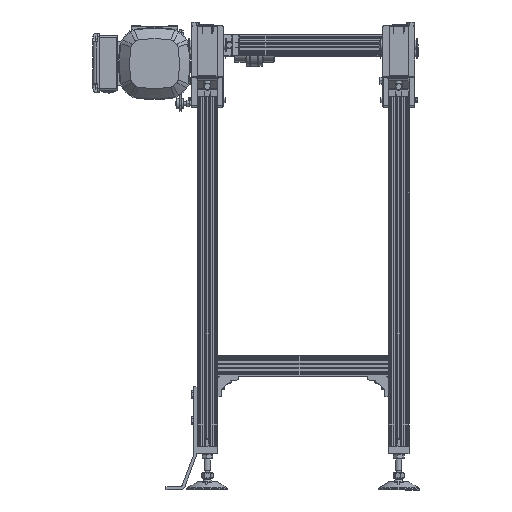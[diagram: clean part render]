
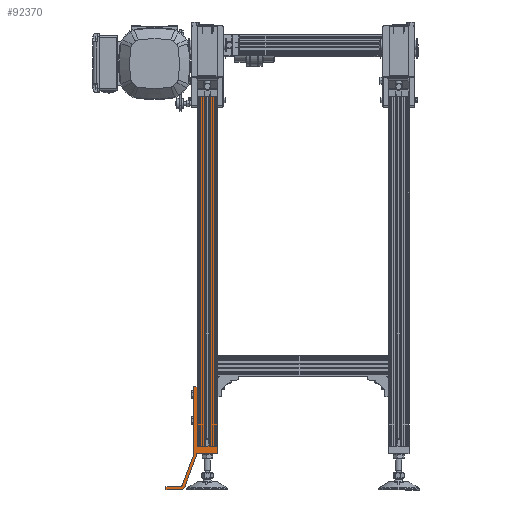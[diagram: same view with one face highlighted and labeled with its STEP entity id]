
A CAD part, left-side view. The second image highlights one B-rep face of the part: STEP entity #92370.
In plain terms, the highlighted planar face has unit normal (-1, 0, 0).
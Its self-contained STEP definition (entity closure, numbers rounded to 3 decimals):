
#5599=LINE('',#144111,#14155);
#5764=LINE('',#144761,#14320);
#5765=LINE('',#144762,#14321);
#5789=LINE('',#144831,#14345);
#5790=LINE('',#144833,#14346);
#5791=LINE('',#144835,#14347);
#5792=LINE('',#144837,#14348);
#5793=LINE('',#144839,#14349);
#5794=LINE('',#144843,#14350);
#5795=LINE('',#144847,#14351);
#5796=LINE('',#144849,#14352);
#5797=LINE('',#144851,#14353);
#5798=LINE('',#144855,#14354);
#5799=LINE('',#144859,#14355);
#5800=LINE('',#144860,#14356);
#5801=LINE('',#144862,#14357);
#5802=LINE('',#144863,#14358);
#5803=LINE('',#144865,#14359);
#5804=LINE('',#144867,#14360);
#5805=LINE('',#144868,#14361);
#14155=VECTOR('',#115348,15.);
#14320=VECTOR('',#115727,13.45);
#14321=VECTOR('',#115728,13.45);
#14345=VECTOR('',#115806,675.);
#14346=VECTOR('',#115807,1.);
#14347=VECTOR('',#115808,115.);
#14348=VECTOR('',#115809,6.);
#14349=VECTOR('',#115810,128.703);
#14350=VECTOR('',#115813,62.015);
#14351=VECTOR('',#115816,25.951);
#14352=VECTOR('',#115817,6.);
#14353=VECTOR('',#115818,25.933);
#14354=VECTOR('',#115821,63.225);
#14355=VECTOR('',#115824,1.249);
#14356=VECTOR('',#115825,40.);
#14357=VECTOR('',#115826,1.);
#14358=VECTOR('',#115827,675.);
#14359=VECTOR('',#115828,675.);
#14360=VECTOR('',#115829,11.1);
#14361=VECTOR('',#115830,675.);
#19674=PLANE('',#99117);
#25890=FACE_OUTER_BOUND('',#31313,.T.);
#31313=EDGE_LOOP('',(#70840,#70841,#70842,#70843,#70844,#70845,#70846,#70847,
#70848,#70849,#70850,#70851,#70852,#70853,#70854,#70855,#70856,#70857,#70858,
#70859,#70860,#70861,#70862,#70863));
#36556=CIRCLE('',#99118,12.);
#36557=CIRCLE('',#99119,6.);
#36558=CIRCLE('',#99120,12.);
#36559=CIRCLE('',#99121,12.);
#42658=VERTEX_POINT('',#144108);
#42659=VERTEX_POINT('',#144110);
#42779=VERTEX_POINT('',#144544);
#42782=VERTEX_POINT('',#144549);
#42784=VERTEX_POINT('',#144555);
#42788=VERTEX_POINT('',#144564);
#42839=VERTEX_POINT('',#144830);
#42840=VERTEX_POINT('',#144832);
#42841=VERTEX_POINT('',#144834);
#42842=VERTEX_POINT('',#144836);
#42843=VERTEX_POINT('',#144838);
#42844=VERTEX_POINT('',#144840);
#42845=VERTEX_POINT('',#144842);
#42846=VERTEX_POINT('',#144844);
#42847=VERTEX_POINT('',#144846);
#42848=VERTEX_POINT('',#144848);
#42849=VERTEX_POINT('',#144850);
#42850=VERTEX_POINT('',#144852);
#42851=VERTEX_POINT('',#144854);
#42852=VERTEX_POINT('',#144856);
#42853=VERTEX_POINT('',#144858);
#42854=VERTEX_POINT('',#144861);
#42855=VERTEX_POINT('',#144864);
#42856=VERTEX_POINT('',#144866);
#52948=EDGE_CURVE('',#42658,#42659,#5599,.T.);
#53172=EDGE_CURVE('',#42779,#42784,#5764,.T.);
#53173=EDGE_CURVE('',#42788,#42782,#5765,.T.);
#53202=EDGE_CURVE('',#42839,#42784,#5789,.T.);
#53203=EDGE_CURVE('',#42839,#42840,#5790,.T.);
#53204=EDGE_CURVE('',#42841,#42840,#5791,.T.);
#53205=EDGE_CURVE('',#42842,#42841,#5792,.T.);
#53206=EDGE_CURVE('',#42843,#42842,#5793,.T.);
#53207=EDGE_CURVE('',#42844,#42843,#36556,.T.);
#53208=EDGE_CURVE('',#42845,#42844,#5794,.T.);
#53209=EDGE_CURVE('',#42846,#42845,#36557,.T.);
#53210=EDGE_CURVE('',#42847,#42846,#5795,.T.);
#53211=EDGE_CURVE('',#42848,#42847,#5796,.T.);
#53212=EDGE_CURVE('',#42849,#42848,#5797,.T.);
#53213=EDGE_CURVE('',#42850,#42849,#36558,.T.);
#53214=EDGE_CURVE('',#42851,#42850,#5798,.T.);
#53215=EDGE_CURVE('',#42852,#42851,#36559,.T.);
#53216=EDGE_CURVE('',#42852,#42853,#5799,.T.);
#53217=EDGE_CURVE('',#42853,#42659,#5800,.T.);
#53218=EDGE_CURVE('',#42658,#42854,#5801,.T.);
#53219=EDGE_CURVE('',#42854,#42788,#5802,.T.);
#53220=EDGE_CURVE('',#42855,#42782,#5803,.T.);
#53221=EDGE_CURVE('',#42855,#42856,#5804,.T.);
#53222=EDGE_CURVE('',#42856,#42779,#5805,.T.);
#70840=ORIENTED_EDGE('',*,*,#53172,.T.);
#70841=ORIENTED_EDGE('',*,*,#53202,.F.);
#70842=ORIENTED_EDGE('',*,*,#53203,.T.);
#70843=ORIENTED_EDGE('',*,*,#53204,.F.);
#70844=ORIENTED_EDGE('',*,*,#53205,.F.);
#70845=ORIENTED_EDGE('',*,*,#53206,.F.);
#70846=ORIENTED_EDGE('',*,*,#53207,.F.);
#70847=ORIENTED_EDGE('',*,*,#53208,.F.);
#70848=ORIENTED_EDGE('',*,*,#53209,.F.);
#70849=ORIENTED_EDGE('',*,*,#53210,.F.);
#70850=ORIENTED_EDGE('',*,*,#53211,.F.);
#70851=ORIENTED_EDGE('',*,*,#53212,.F.);
#70852=ORIENTED_EDGE('',*,*,#53213,.F.);
#70853=ORIENTED_EDGE('',*,*,#53214,.F.);
#70854=ORIENTED_EDGE('',*,*,#53215,.F.);
#70855=ORIENTED_EDGE('',*,*,#53216,.T.);
#70856=ORIENTED_EDGE('',*,*,#53217,.T.);
#70857=ORIENTED_EDGE('',*,*,#52948,.F.);
#70858=ORIENTED_EDGE('',*,*,#53218,.T.);
#70859=ORIENTED_EDGE('',*,*,#53219,.T.);
#70860=ORIENTED_EDGE('',*,*,#53173,.T.);
#70861=ORIENTED_EDGE('',*,*,#53220,.F.);
#70862=ORIENTED_EDGE('',*,*,#53221,.T.);
#70863=ORIENTED_EDGE('',*,*,#53222,.T.);
#92370=ADVANCED_FACE('',(#25890),#19674,.T.);
#99117=AXIS2_PLACEMENT_3D('',#144829,#115804,#115805);
#99118=AXIS2_PLACEMENT_3D('',#144841,#115811,#115812);
#99119=AXIS2_PLACEMENT_3D('',#144845,#115814,#115815);
#99120=AXIS2_PLACEMENT_3D('',#144853,#115819,#115820);
#99121=AXIS2_PLACEMENT_3D('',#144857,#115822,#115823);
#115348=DIRECTION('',(0.,0.,-1.));
#115727=DIRECTION('',(0.,1.,0.));
#115728=DIRECTION('',(0.,1.,0.));
#115804=DIRECTION('center_axis',(-1.,0.,0.));
#115805=DIRECTION('ref_axis',(0.,-1.,0.));
#115806=DIRECTION('',(0.,0.,1.));
#115807=DIRECTION('',(0.,1.,0.));
#115808=DIRECTION('',(0.,0.,-1.));
#115809=DIRECTION('',(0.,-1.,0.));
#115810=DIRECTION('',(0.,0.,1.));
#115811=DIRECTION('center_axis',(-1.,0.,0.));
#115812=DIRECTION('ref_axis',(0.,1.,0.));
#115813=DIRECTION('',(0.,-0.353,0.936));
#115814=DIRECTION('center_axis',(-1.,0.,0.));
#115815=DIRECTION('ref_axis',(0.,0.977,0.214));
#115816=DIRECTION('',(0.,-1.,0.));
#115817=DIRECTION('',(0.,0.,1.));
#115818=DIRECTION('',(0.,1.,0.));
#115819=DIRECTION('center_axis',(1.,0.,0.));
#115820=DIRECTION('ref_axis',(0.,-0.977,-0.212));
#115821=DIRECTION('',(0.,0.349,-0.937));
#115822=DIRECTION('center_axis',(1.,0.,0.));
#115823=DIRECTION('ref_axis',(0.,-1.,0.));
#115824=DIRECTION('',(0.,0.,-1.));
#115825=DIRECTION('',(0.,-1.,0.));
#115826=DIRECTION('',(0.,1.,0.));
#115827=DIRECTION('',(0.,0.,1.));
#115828=DIRECTION('',(0.,0.,1.));
#115829=DIRECTION('',(0.,1.,0.));
#115830=DIRECTION('',(0.,0.,1.));
#144108=CARTESIAN_POINT('',(223.,165.,-713.55));
#144110=CARTESIAN_POINT('',(223.,165.,-728.55));
#144111=CARTESIAN_POINT('',(223.,165.,-713.55));
#144544=CARTESIAN_POINT('',(223.,190.55,-38.55));
#144549=CARTESIAN_POINT('',(223.,179.45,-38.55));
#144555=CARTESIAN_POINT('',(223.,204.,-38.55));
#144564=CARTESIAN_POINT('',(223.,166.,-38.55));
#144761=CARTESIAN_POINT('',(223.,194.5,-38.55));
#144762=CARTESIAN_POINT('',(223.,194.5,-38.55));
#144829=CARTESIAN_POINT('Origin',(223.,204.,-713.55));
#144830=CARTESIAN_POINT('',(223.,204.,-713.55));
#144831=CARTESIAN_POINT('',(223.,204.,-713.55));
#144832=CARTESIAN_POINT('',(223.,205.,-713.55));
#144833=CARTESIAN_POINT('',(223.,165.,-713.55));
#144834=CARTESIAN_POINT('',(223.,205.,-598.55));
#144835=CARTESIAN_POINT('',(223.,205.,-598.55));
#144836=CARTESIAN_POINT('',(223.,211.,-598.55));
#144837=CARTESIAN_POINT('',(223.,211.,-598.55));
#144838=CARTESIAN_POINT('',(223.,211.,-727.253));
#144839=CARTESIAN_POINT('',(223.,211.,-727.253));
#144840=CARTESIAN_POINT('',(223.,211.277,-729.817));
#144841=CARTESIAN_POINT('Origin',(223.,223.,-727.253));
#144842=CARTESIAN_POINT('',(223.,233.188,-787.832));
#144843=CARTESIAN_POINT('',(223.,233.188,-787.832));
#144844=CARTESIAN_POINT('',(223.,239.049,-792.55));
#144845=CARTESIAN_POINT('Origin',(223.,239.049,-786.55));
#144846=CARTESIAN_POINT('',(223.,265.,-792.55));
#144847=CARTESIAN_POINT('',(223.,265.,-792.55));
#144848=CARTESIAN_POINT('',(223.,265.,-798.55));
#144849=CARTESIAN_POINT('',(223.,265.,-798.55));
#144850=CARTESIAN_POINT('',(223.,239.067,-798.55));
#144851=CARTESIAN_POINT('',(223.,239.067,-798.55));
#144852=CARTESIAN_POINT('',(223.,227.34,-789.093));
#144853=CARTESIAN_POINT('Origin',(223.,239.067,-786.55));
#144854=CARTESIAN_POINT('',(223.,205.273,-729.844));
#144855=CARTESIAN_POINT('',(223.,205.273,-729.844));
#144856=CARTESIAN_POINT('',(223.,205.,-727.301));
#144857=CARTESIAN_POINT('Origin',(223.,217.,-727.301));
#144858=CARTESIAN_POINT('',(223.,205.,-728.55));
#144859=CARTESIAN_POINT('',(223.,205.,-713.55));
#144860=CARTESIAN_POINT('',(223.,165.,-728.55));
#144861=CARTESIAN_POINT('',(223.,166.,-713.55));
#144862=CARTESIAN_POINT('',(223.,165.,-713.55));
#144863=CARTESIAN_POINT('',(223.,166.,-713.55));
#144864=CARTESIAN_POINT('',(223.,179.45,-713.55));
#144865=CARTESIAN_POINT('',(223.,179.45,-713.55));
#144866=CARTESIAN_POINT('',(223.,190.55,-713.55));
#144867=CARTESIAN_POINT('',(223.,165.,-713.55));
#144868=CARTESIAN_POINT('',(223.,190.55,-713.55));
